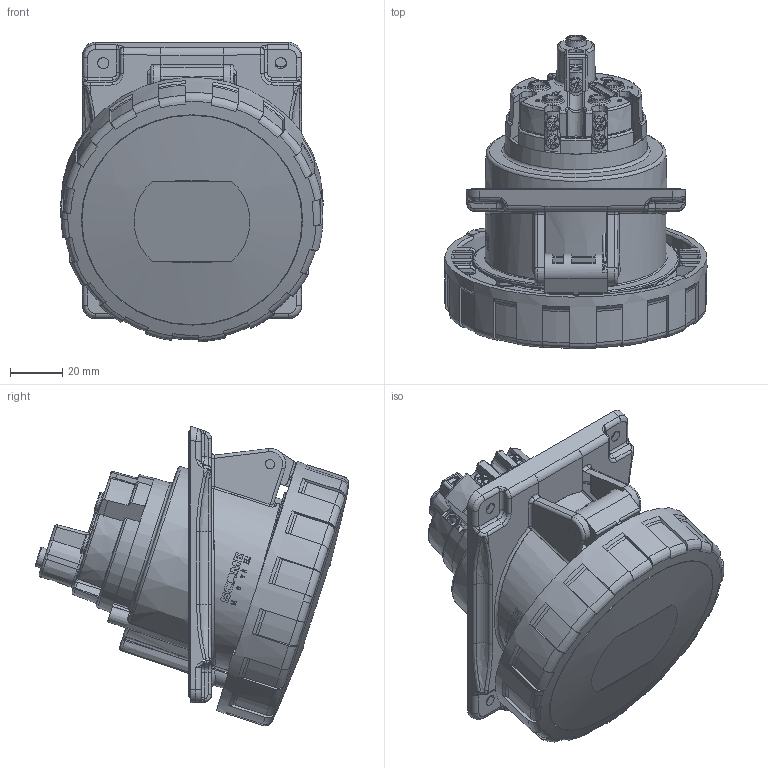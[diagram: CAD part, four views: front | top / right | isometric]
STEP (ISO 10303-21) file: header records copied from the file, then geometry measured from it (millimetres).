
FILE_DESCRIPTION(/* description */ (''),/* implementation_level */ '2;1');
FILE_NAME(/* name */ '4001914.stp',/* time_stamp */ '2017-05-09T05:54:32+02:00',/* author */ (''),/* organization */ (''),/* preprocessor_version */ 'ST-DEVELOPER v16',/* originating_system */ 'SIEMENS PLM Software NX 11.0',/* authorisation */ '');
FILE_SCHEMA (('AUTOMOTIVE_DESIGN { 1 0 10303 214 3 1 1 1 }'));
Length unit declared in the file: millimetre
Products named in the file (1): 4001914_LINKEDEXT_jt
Bounding box: 100.49 x 120.32 x 114.94 mm (x, y, z)
Surface area: 130842 mm2 (no closed solid volume)
Topology: 0 solids, 150 shells, 1222 faces, 5152 edges, 3920 vertices
Faces by surface type: bspline 345, cylinder 337, plane 291, torus 110, cone 92, sphere 35, extrusion 12
Full cylindrical faces by diameter (mm): 1.1 x1, 2.322 x4, 3.5 x9, 4 x1, 4.643 x1, 4.7 x5, 4.8 x5, 5.8 x7, 8 x2, 10 x1, 84.4 x1, 84.8 x1, 93.5 x1, 100.5 x1
Entity records: 78438 total; most frequent: CARTESIAN_POINT 35463, DIRECTION 7171, ORIENTED_EDGE 6993, EDGE_CURVE 4970, VERTEX_POINT 3868, AXIS2_PLACEMENT_3D 2744, VECTOR 1683, LINE 1671
